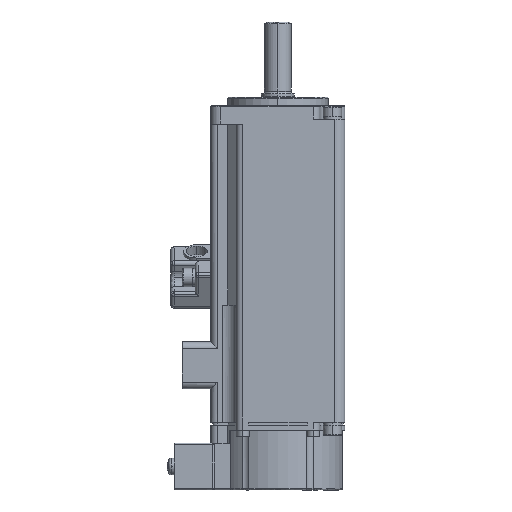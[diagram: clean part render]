
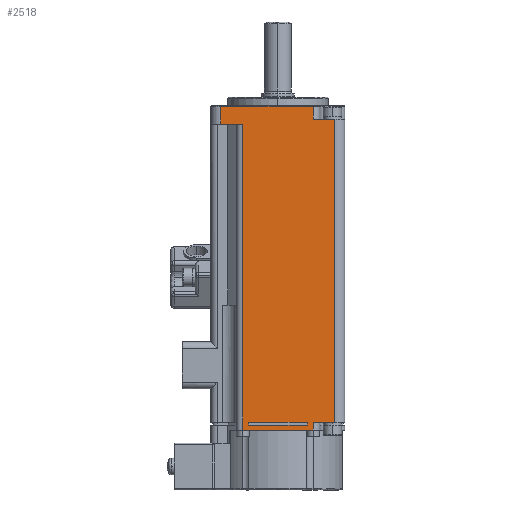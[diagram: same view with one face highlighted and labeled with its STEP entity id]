
A CAD part, left-side view. The second image highlights one B-rep face of the part: STEP entity #2518.
In plain terms, the highlighted planar face has unit normal (-1, 0, 0).
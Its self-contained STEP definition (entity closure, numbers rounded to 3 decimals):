
#1330 = EDGE_LOOP ( 'NONE', ( #17724, #8024, #12611, #13484 ) ) ;
#1500 = ORIENTED_EDGE ( 'NONE', *, *, #32735, .T. ) ;
#1759 = CARTESIAN_POINT ( 'NONE',  ( -20., -8.75, -70.2 ) ) ;
#1938 = CARTESIAN_POINT ( 'NONE',  ( -20., -8.75, 0. ) ) ;
#2022 = CARTESIAN_POINT ( 'NONE',  ( -20., 8.75, -69.4 ) ) ;
#2518 = ADVANCED_FACE ( 'NONE', ( #12091, #15599 ), #29566, .T. ) ;
#3416 = DIRECTION ( 'NONE',  ( 0., 0., 1. ) ) ;
#3928 = CARTESIAN_POINT ( 'NONE',  ( -20., -10.5, 0. ) ) ;
#4277 = DIRECTION ( 'NONE',  ( 0., -1., 0. ) ) ;
#5063 = DIRECTION ( 'NONE',  ( 0., 0., -1. ) ) ;
#5617 = DIRECTION ( 'NONE',  ( 0., 1., 0. ) ) ;
#5654 = CARTESIAN_POINT ( 'NONE',  ( -20., -17., -69.4 ) ) ;
#5742 = CARTESIAN_POINT ( 'NONE',  ( -20., 0., 19.6 ) ) ;
#6815 = CARTESIAN_POINT ( 'NONE',  ( -20., 10.5, 19.6 ) ) ;
#7124 = VERTEX_POINT ( 'NONE', #19038 ) ;
#7754 = DIRECTION ( 'NONE',  ( 0., 0., -1. ) ) ;
#8024 = ORIENTED_EDGE ( 'NONE', *, *, #32969, .T. ) ;
#8155 = CARTESIAN_POINT ( 'NONE',  ( -20., -17., 21.1 ) ) ;
#8799 = VERTEX_POINT ( 'NONE', #32393 ) ;
#8885 = ORIENTED_EDGE ( 'NONE', *, *, #18114, .T. ) ;
#9360 = CARTESIAN_POINT ( 'NONE',  ( -20., -8.75, -69.4 ) ) ;
#10126 = DIRECTION ( 'NONE',  ( 0., -1., 0. ) ) ;
#10946 = LINE ( 'NONE', #5742, #32972 ) ;
#10975 = LINE ( 'NONE', #11566, #25564 ) ;
#11414 = DIRECTION ( 'NONE',  ( 0., 0., 1. ) ) ;
#11566 = CARTESIAN_POINT ( 'NONE',  ( -20., 17., 19.6 ) ) ;
#12060 = CARTESIAN_POINT ( 'NONE',  ( -20., 12.5, -70.2 ) ) ;
#12091 = FACE_BOUND ( 'NONE', #1330, .T. ) ;
#12332 = VERTEX_POINT ( 'NONE', #8155 ) ;
#12611 = ORIENTED_EDGE ( 'NONE', *, *, #32738, .T. ) ;
#12652 = VECTOR ( 'NONE', #7754, 1000. ) ;
#13484 = ORIENTED_EDGE ( 'NONE', *, *, #32835, .T. ) ;
#13951 = EDGE_LOOP ( 'NONE', ( #35020, #1500, #19411, #29586, #24362, #16272, #16952, #17207, #17430, #8885 ) ) ;
#15432 = DIRECTION ( 'NONE',  ( 0., 0., 1. ) ) ;
#15599 = FACE_OUTER_BOUND ( 'NONE', #13951, .T. ) ;
#16255 = DIRECTION ( 'NONE',  ( 0., 1., 0. ) ) ;
#16272 = ORIENTED_EDGE ( 'NONE', *, *, #32388, .T. ) ;
#16654 = VERTEX_POINT ( 'NONE', #35685 ) ;
#16952 = ORIENTED_EDGE ( 'NONE', *, *, #32485, .T. ) ;
#17207 = ORIENTED_EDGE ( 'NONE', *, *, #18255, .F. ) ;
#17430 = ORIENTED_EDGE ( 'NONE', *, *, #18317, .F. ) ;
#17724 = ORIENTED_EDGE ( 'NONE', *, *, #32908, .T. ) ;
#18114 = EDGE_CURVE ( 'NONE', #38569, #28694, #28467, .T. ) ;
#18255 = EDGE_CURVE ( 'NONE', #7124, #26001, #10975, .T. ) ;
#18317 = EDGE_CURVE ( 'NONE', #38569, #7124, #10946, .T. ) ;
#19038 = CARTESIAN_POINT ( 'NONE',  ( -20., 17., 19.6 ) ) ;
#19411 = ORIENTED_EDGE ( 'NONE', *, *, #32276, .T. ) ;
#19650 = VECTOR ( 'NONE', #10126, 1000. ) ;
#19909 = LINE ( 'NONE', #25965, #19650 ) ;
#21021 = CARTESIAN_POINT ( 'NONE',  ( -20., -10.5, 24.9 ) ) ;
#21526 = VERTEX_POINT ( 'NONE', #9360 ) ;
#21771 = LINE ( 'NONE', #22253, #21863 ) ;
#21863 = VECTOR ( 'NONE', #3416, 1000. ) ;
#22253 = CARTESIAN_POINT ( 'NONE',  ( -20., 8.75, 0. ) ) ;
#22609 = CARTESIAN_POINT ( 'NONE',  ( -20., -10.5, 21.1 ) ) ;
#22794 = LINE ( 'NONE', #12060, #22880 ) ;
#22880 = VECTOR ( 'NONE', #31013, 1000. ) ;
#23139 = CARTESIAN_POINT ( 'NONE',  ( -20., 12.5, -71.7 ) ) ;
#23658 = DIRECTION ( 'NONE',  ( 0., 0., 1. ) ) ;
#24095 = VERTEX_POINT ( 'NONE', #5654 ) ;
#24178 = VERTEX_POINT ( 'NONE', #22609 ) ;
#24315 = VECTOR ( 'NONE', #5063, 1000. ) ;
#24362 = ORIENTED_EDGE ( 'NONE', *, *, #32378, .T. ) ;
#24537 = LINE ( 'NONE', #1938, #24315 ) ;
#24570 = CARTESIAN_POINT ( 'NONE',  ( -20., 12.5, -69.4 ) ) ;
#24575 = LINE ( 'NONE', #30072, #24584 ) ;
#24584 = VECTOR ( 'NONE', #23658, 1000. ) ;
#25069 = CARTESIAN_POINT ( 'NONE',  ( -20., 12.5, 24.9 ) ) ;
#25564 = VECTOR ( 'NONE', #11414, 1000. ) ;
#25620 = VECTOR ( 'NONE', #4277, 1000. ) ;
#25697 = LINE ( 'NONE', #23139, #25620 ) ;
#25965 = CARTESIAN_POINT ( 'NONE',  ( -20., 12.5, -69.4 ) ) ;
#26001 = VERTEX_POINT ( 'NONE', #34578 ) ;
#27232 = VERTEX_POINT ( 'NONE', #32968 ) ;
#27426 = VECTOR ( 'NONE', #39802, 1000. ) ;
#27464 = DIRECTION ( 'NONE',  ( 0., -1., 0. ) ) ;
#27592 = DIRECTION ( 'NONE',  ( -1., 0., 0. ) ) ;
#27648 = CARTESIAN_POINT ( 'NONE',  ( -20., 12.5, 0. ) ) ;
#27701 = DIRECTION ( 'NONE',  ( 0., -1., 0. ) ) ;
#27775 = LINE ( 'NONE', #25069, #27426 ) ;
#28467 = LINE ( 'NONE', #32987, #12652 ) ;
#28694 = VERTEX_POINT ( 'NONE', #29455 ) ;
#28904 = VECTOR ( 'NONE', #32211, 1000. ) ;
#28943 = VECTOR ( 'NONE', #16255, 1000. ) ;
#29057 = LINE ( 'NONE', #3928, #28904 ) ;
#29172 = LINE ( 'NONE', #37866, #28943 ) ;
#29455 = CARTESIAN_POINT ( 'NONE',  ( -20., 10.5, -71.7 ) ) ;
#29566 = PLANE ( 'NONE',  #33140 ) ;
#29586 = ORIENTED_EDGE ( 'NONE', *, *, #32323, .T. ) ;
#29871 = VECTOR ( 'NONE', #15432, 1000. ) ;
#29912 = LINE ( 'NONE', #34318, #29871 ) ;
#30072 = CARTESIAN_POINT ( 'NONE',  ( -20., -10.5, 0. ) ) ;
#30687 = VECTOR ( 'NONE', #27701, 1000. ) ;
#30834 = VERTEX_POINT ( 'NONE', #2022 ) ;
#31012 = LINE ( 'NONE', #24570, #30687 ) ;
#31013 = DIRECTION ( 'NONE',  ( 0., 1., 0. ) ) ;
#32161 = VERTEX_POINT ( 'NONE', #1759 ) ;
#32211 = DIRECTION ( 'NONE',  ( 0., 0., 1. ) ) ;
#32276 = EDGE_CURVE ( 'NONE', #8799, #24095, #31012, .T. ) ;
#32323 = EDGE_CURVE ( 'NONE', #24095, #12332, #29912, .T. ) ;
#32378 = EDGE_CURVE ( 'NONE', #12332, #24178, #29172, .T. ) ;
#32388 = EDGE_CURVE ( 'NONE', #24178, #35327, #29057, .T. ) ;
#32393 = CARTESIAN_POINT ( 'NONE',  ( -20., -10.5, -69.4 ) ) ;
#32485 = EDGE_CURVE ( 'NONE', #35327, #26001, #27775, .T. ) ;
#32611 = EDGE_CURVE ( 'NONE', #28694, #27232, #25697, .T. ) ;
#32735 = EDGE_CURVE ( 'NONE', #27232, #8799, #24575, .T. ) ;
#32738 = EDGE_CURVE ( 'NONE', #21526, #32161, #24537, .T. ) ;
#32835 = EDGE_CURVE ( 'NONE', #32161, #16654, #22794, .T. ) ;
#32908 = EDGE_CURVE ( 'NONE', #16654, #30834, #21771, .T. ) ;
#32968 = CARTESIAN_POINT ( 'NONE',  ( -20., -10.5, -71.7 ) ) ;
#32969 = EDGE_CURVE ( 'NONE', #30834, #21526, #19909, .T. ) ;
#32972 = VECTOR ( 'NONE', #5617, 1000. ) ;
#32987 = CARTESIAN_POINT ( 'NONE',  ( -20., 10.5, 0. ) ) ;
#33140 = AXIS2_PLACEMENT_3D ( 'NONE', #27648, #27592, #27464 ) ;
#34318 = CARTESIAN_POINT ( 'NONE',  ( -20., -17., 0. ) ) ;
#34578 = CARTESIAN_POINT ( 'NONE',  ( -20., 17., 24.9 ) ) ;
#35020 = ORIENTED_EDGE ( 'NONE', *, *, #32611, .T. ) ;
#35327 = VERTEX_POINT ( 'NONE', #21021 ) ;
#35685 = CARTESIAN_POINT ( 'NONE',  ( -20., 8.75, -70.2 ) ) ;
#37866 = CARTESIAN_POINT ( 'NONE',  ( -20., 12.5, 21.1 ) ) ;
#38569 = VERTEX_POINT ( 'NONE', #6815 ) ;
#39802 = DIRECTION ( 'NONE',  ( 0., 1., 0. ) ) ;
